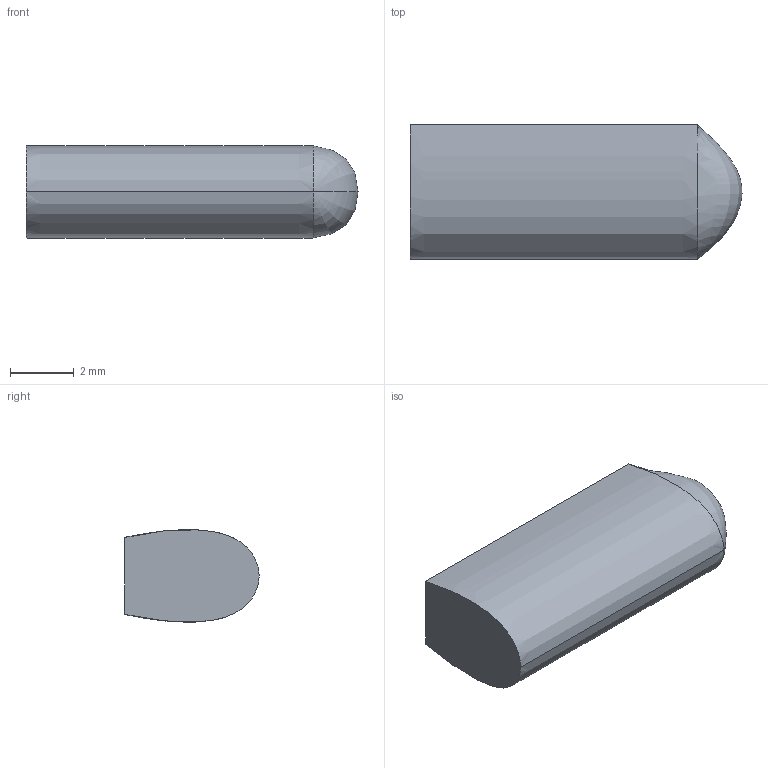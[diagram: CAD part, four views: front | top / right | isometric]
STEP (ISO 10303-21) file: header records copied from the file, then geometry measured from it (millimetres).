
FILE_DESCRIPTION((''),'1');
FILE_NAME('ELEK-ST14-20E','2001-03-29T',('rgoetz'),(''),'PRO/ENGINEER BY PARAMETRIC TECHNOLOGY CORPORATION, 2000350','PRO/ENGINEER BY PARAMETRIC TECHNOLOGY CORPORATION, 2000350','');
FILE_SCHEMA(('CONFIG_CONTROL_DESIGN'));
Length unit declared in the file: millimetre
Products named in the file (1): ELEK-ST14-20E
Bounding box: 10.4 x 4.2 x 2.9 mm (x, y, z)
Volume: 104.3 mm3; surface area: 138.4 mm2
Topology: 1 solids, 1 shells, 6 faces, 13 edges, 7 vertices
Faces by surface type: plane 2, extrusion 2, bspline 2
Entity records: 618 total; most frequent: CARTESIAN_POINT 477, ORIENTED_EDGE 22, EDGE_CURVE 11, DIRECTION 10, B_SPLINE_CURVE_WITH_KNOTS 9, VERTEX_POINT 7, VECTOR 6, EDGE_LOOP 6
